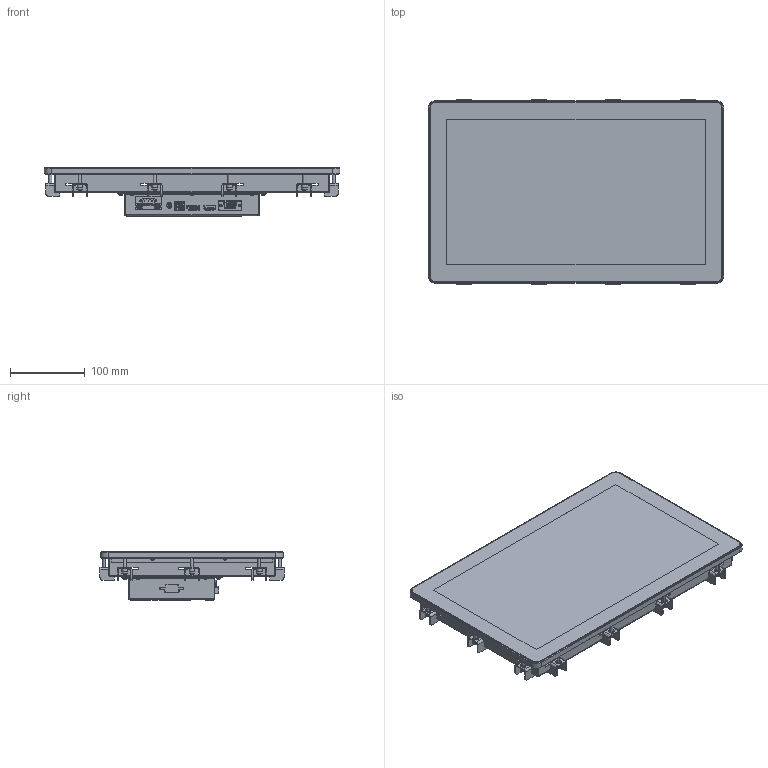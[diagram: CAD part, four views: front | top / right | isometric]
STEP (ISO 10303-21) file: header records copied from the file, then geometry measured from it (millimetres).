
FILE_DESCRIPTION (( 'STEP AP203' ), '1' );
FILE_NAME ('S156S-MON assembly.STEP', '2026-03-26T16:03:35', ( '' ), ( '' ), 'SwSTEP 2.0', 'SolidWorks 2025', '' );
FILE_SCHEMA (( 'CONFIG_CONTROL_DESIGN' ));
Length unit declared in the file: millimetre
Products named in the file (25): DC002; DIN EN ISO 7046-1 - M3 x 6 - Z - 6N_DIN EN ISO 7046-1 - M3 x 6 - Z - 6N; TLV-C08-IO Input sticker; C08-1525NPH; MPS-156-10 Mounting plate; S156S-MON assembly; MBR-10 Mounting bracket; TFT-OF6S-00 Small backcover assembly_Monitor componenten; DIN EN ISO 7045 - M3 x 4 - Z - 4N_DIN EN ISO 7045 - M3 x 4 - Z - 4N; sn sticker^TFT-OF6S-00 Small backcover assembly; BC-TFT-OF6-11 Small backcover; DIN EN ISO 7045 - M4 x 20 - Z - 20N_DIN EN ISO 7045 - M4 x 20 - Z - 20N; DFK-MSTB 2,5 3-GF-5,08; CPCB membrame key pad; S156S-10 Bezel; SO4-M4-6 Inpersafstandsteun; SO-3,5M3-6-ZI Inpersafstandsteun; GPC-156 kleine border; TLV-C08-24V sticker; Pakking 8x2 celrubber^S156S-MON assembly; TF-F-M3 Inpersmoer; G156HCE-L01
Assembly tree (79 placements, depth 4):
  S156S-MON assembly
    S156S-10 Bezel
    MPS-156-10 Mounting plate
      MPS-156-10 Mounting plate
      TF-F-M3 Inpersmoer  x10
    GPC-156 kleine border
    G156HCE-L01
    Pakking 8x2 celrubber^S156S-MON assembly
    TFT-OF6S-00 Small backcover assembly_Monitor componenten
      BC-TFT-OF6-11 Small backcover
        BC-TFT-OF6-11 Small backcover
        SO-3,5M3-6-ZI Inpersafstandsteun  x6
        TF-F-M3 Inpersmoer  x2
      C08-1525NPH
      DC002
      DFK-MSTB 2,5 3-GF-5,08
      CPCB membrame key pad
      TLV-C08-24V sticker
      TLV-C08-IO Input sticker
      sn sticker^TFT-OF6S-00 Small backcover assembly
    MBR-10 Mounting bracket  x14
      MBR-10 Mounting bracket
      SO4-M4-6 Inpersafstandsteun
      DIN EN ISO 7045 - M4 x 20 - Z - 20N_DIN EN ISO 7045 - M4 x 20 - Z - 20N
    DIN EN ISO 7045 - M3 x 4 - Z - 4N_DIN EN ISO 7045 - M3 x 4 - Z - 4N  x10
    DIN EN ISO 7046-1 - M3 x 6 - Z - 6N_DIN EN ISO 7046-1 - M3 x 6 - Z - 6N  x18
Bounding box: 395 x 245.9 x 65.65 mm (x, y, z)
Volume: 1211053.7 mm3; surface area: 812492.7 mm2
Topology: 100 solids, 658 shells, 6482 faces, 19488 edges, 13627 vertices
Faces by surface type: plane 4764, cylinder 1032, cone 381, bspline 178, torus 97, sphere 30
Full cylindrical faces by diameter (mm): 0.1 x1, 0.2 x1, 0.434 x1, 0.8 x16, 1 x3, 1.2 x1, 1.27 x15, 2 x1, 2.5 x34, 2.8 x2, 3 x34, 3.5 x16, 3.6 x2, 4 x28, 4.3 x10, 4.41 x2, 4.75 x18, 5.4 x6, 5.49 x6, 5.5 x18, 5.6 x10, 6 x2, 6.3 x1, 6.6 x2, 7.1 x14, 7.22 x14, 7.5 x1, 8 x16
Entity records: 167767 total; most frequent: CARTESIAN_POINT 45764, ORIENTED_EDGE 22335, DIRECTION 21778, EDGE_CURVE 14141, VERTEX_POINT 10467, LINE 10282, VECTOR 10282, AXIS2_PLACEMENT_3D 5748
